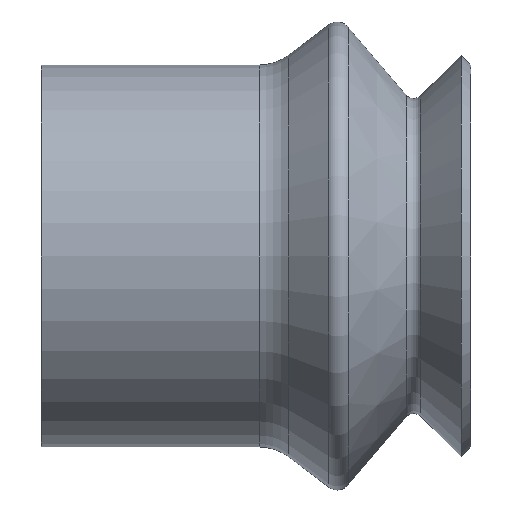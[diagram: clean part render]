
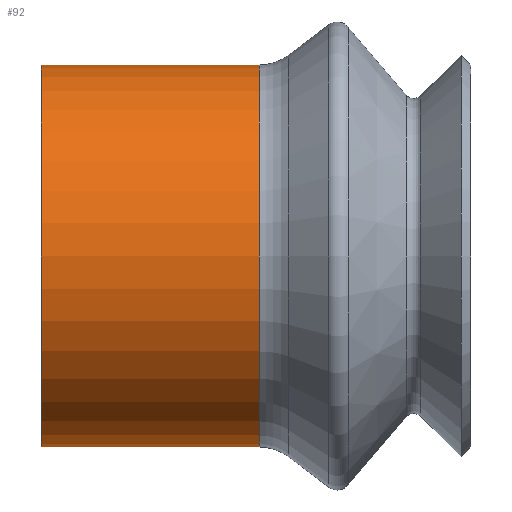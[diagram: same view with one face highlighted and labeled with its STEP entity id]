
A CAD part, left-side view. The second image highlights one B-rep face of the part: STEP entity #92.
In plain terms, the highlighted cylindrical face has radius 4 mm (diameter 8 mm), a full revolution.
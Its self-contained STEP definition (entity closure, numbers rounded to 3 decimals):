
#92=ADVANCED_FACE('',(#148,#149),#150,.T.);
#148=FACE_OUTER_BOUND('',#211,.T.);
#149=FACE_OUTER_BOUND('',#212,.T.);
#150=CYLINDRICAL_SURFACE('',#213,4.0);
#211=EDGE_LOOP('',(#308));
#212=EDGE_LOOP('',(#309));
#213=AXIS2_PLACEMENT_3D('',#310,#311,#312);
#308=ORIENTED_EDGE('',*,*,#330,.T.);
#309=ORIENTED_EDGE('',*,*,#348,.T.);
#310=CARTESIAN_POINT('',(0.0,0.0,0.0));
#311=DIRECTION('',(0.0,-1.0,0.));
#312=DIRECTION('',(0.0,0.,-1.0));
#330=EDGE_CURVE('',#353,#353,#354,.F.);
#348=EDGE_CURVE('',#389,#389,#390,.T.);
#353=VERTEX_POINT('',#395);
#354=CIRCLE('',#396,4.0);
#389=VERTEX_POINT('',#431);
#390=CIRCLE('',#432,4.0);
#395=CARTESIAN_POINT('',(0.0,11.39,-4.0));
#396=AXIS2_PLACEMENT_3D('',#439,#440,#441);
#431=CARTESIAN_POINT('',(4.0,15.96,0.));
#432=AXIS2_PLACEMENT_3D('',#493,#494,#495);
#439=CARTESIAN_POINT('',(0.0,11.39,0.));
#440=DIRECTION('',(0.0,-1.0,0.));
#441=DIRECTION('',(0.0,0.,-1.0));
#493=CARTESIAN_POINT('',(0.0,15.96,0.));
#494=DIRECTION('',(0.0,-1.0,0.));
#495=DIRECTION('',(0.0,0.,-1.0));
